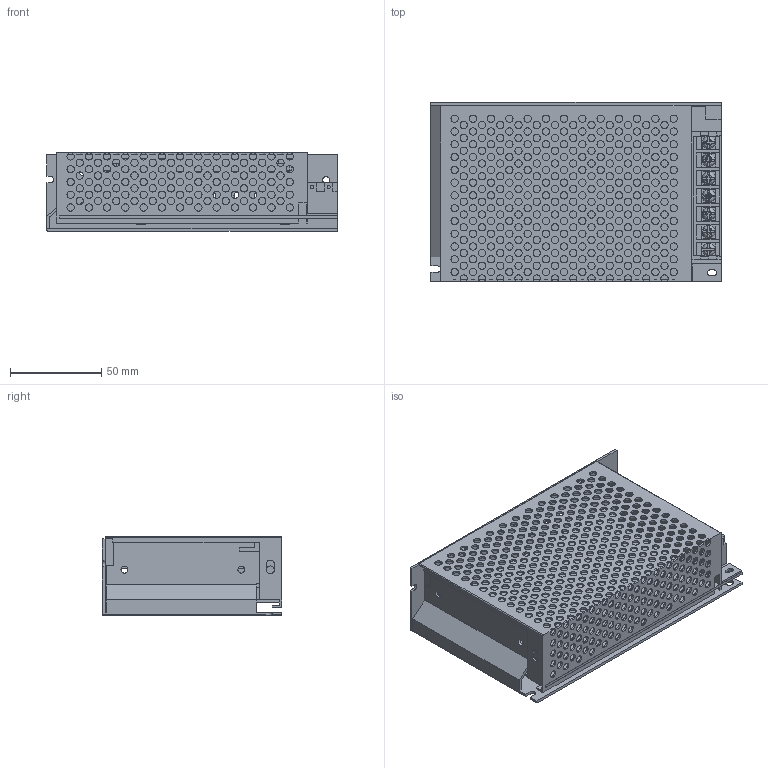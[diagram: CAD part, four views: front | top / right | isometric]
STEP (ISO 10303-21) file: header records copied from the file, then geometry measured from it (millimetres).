
FILE_DESCRIPTION((''),'2;1');
FILE_NAME('VCS100','2018-08-16T16:09:31',('jquinto'),(''),'CREO PARAMETRIC BY PTC INC, 2018100','CREO PARAMETRIC BY PTC INC, 2018100','');
FILE_SCHEMA(('CONFIG_CONTROL_DESIGN'));
Length unit declared in the file: millimetre
Products named in the file (1): VCS100
Bounding box: 159 x 98.2 x 43 mm (x, y, z)
Volume: 89907.1 mm3; surface area: 125264.2 mm2
Topology: 8 solids, 8 shells, 1558 faces, 4736 edges, 3111 vertices
Faces by surface type: cylinder 953, plane 585, bspline 14, cone 6
Entity records: 56321 total; most frequent: CARTESIAN_POINT 10123, DIRECTION 9880, ORIENTED_EDGE 9472, EDGE_CURVE 4736, AXIS2_PLACEMENT_3D 3668, VERTEX_POINT 3112, VECTOR 2544, LINE 2544
